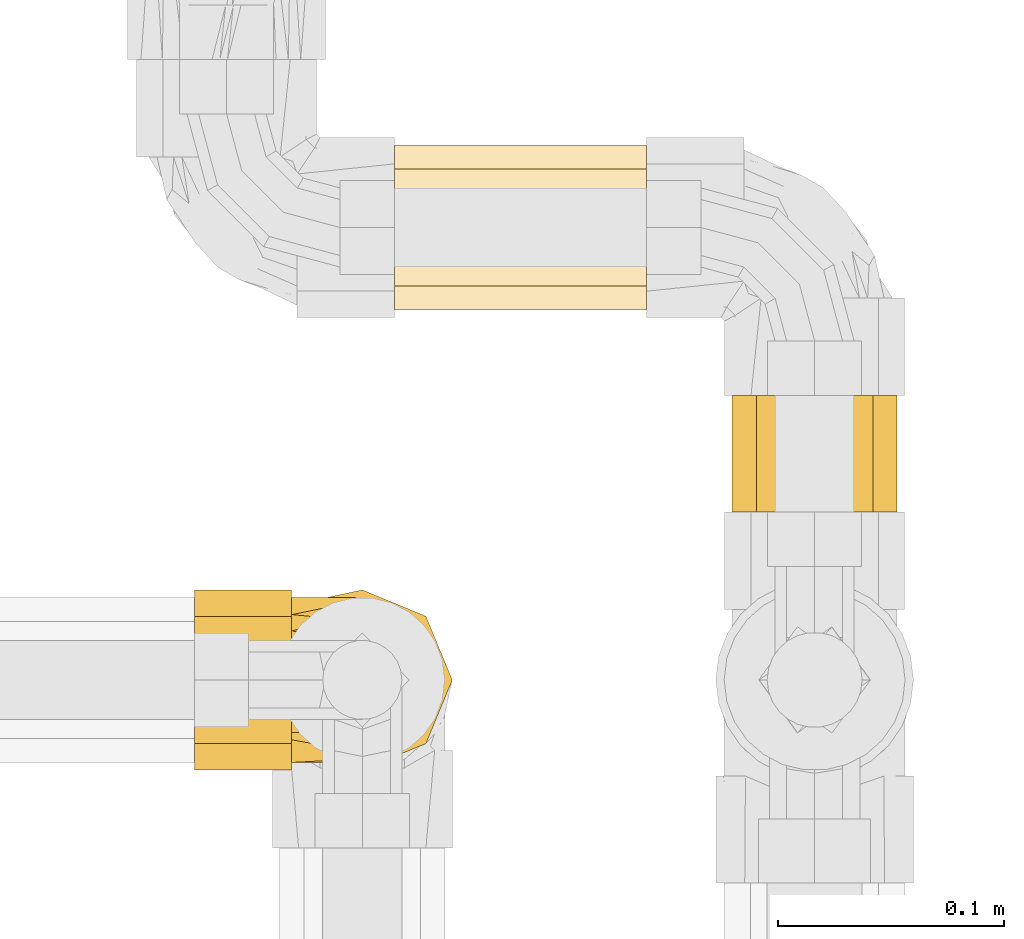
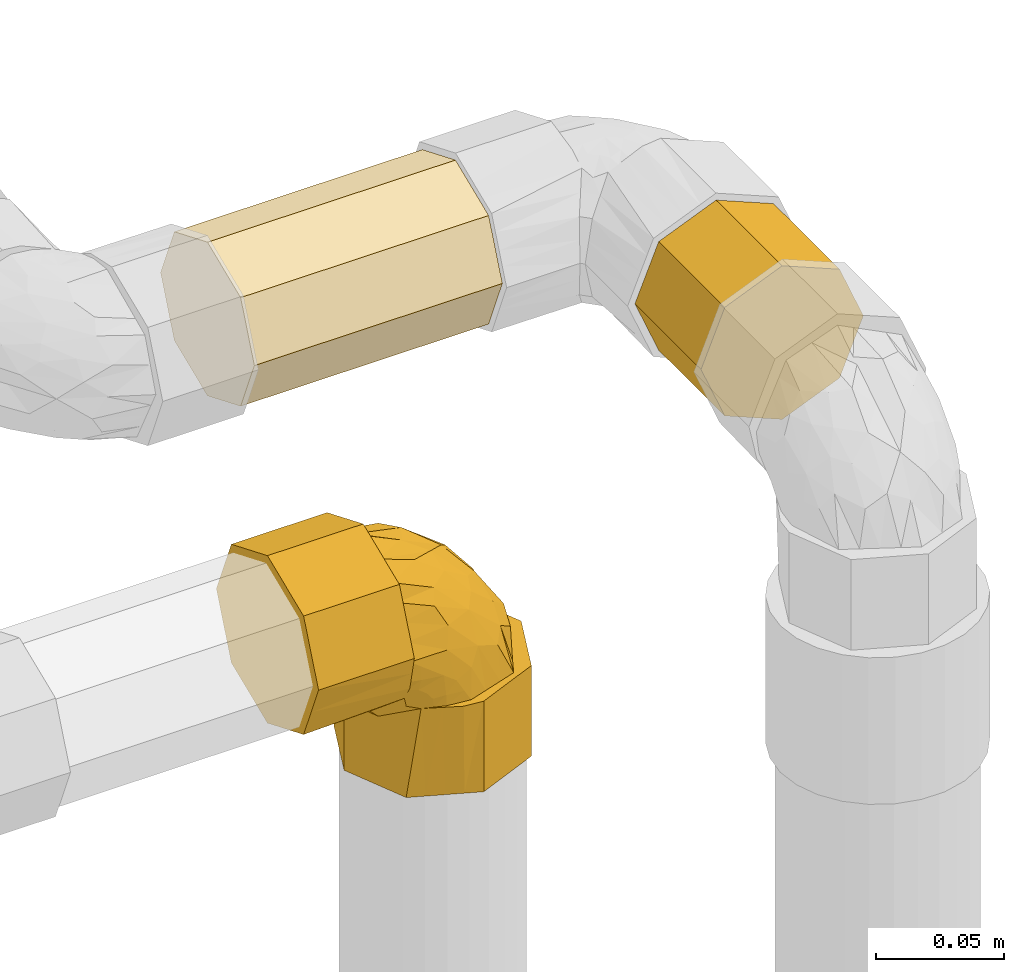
# One storey, part 254 of 652: 3 coverings.
"""IFC2X3 building model written with IfcOpenShell, lengths in millimetres."""

from ifc_helpers import new_model, entity, si_unit, converted_unit, direction, frame, origin, place, context, subcontext, project, spatial, faceted_brep, material, type_object, element, save


model = new_model("IFC2X3")

# Units and contexts
model_context = context("Model", 3, precision=0.01, world=frame((0.0, 0.0, 308426.39999999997)), true_north=direction((6.123233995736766e-17, 1.0)))
plan_context = context("Plan", 3, precision=0.01, world=frame((0.0, 0.0, 308426.39999999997)), true_north=direction((6.123233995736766e-17, 1.0)))
body_context = subcontext(model_context, "Body", "Model", "MODEL_VIEW")
ifc_project = project(units=[si_unit("LENGTHUNIT", "METRE", prefix="MILLI"), si_unit("AREAUNIT", "SQUARE_METRE"), si_unit("VOLUMEUNIT", "CUBIC_METRE"), converted_unit("PLANEANGLEUNIT", "DEGREE", entity("IfcPlaneAngleMeasure", 0.017453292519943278), si_unit("PLANEANGLEUNIT", "RADIAN"), dimensions=[0, 0, 0, 0, 0, 0, 0])], contexts=[model_context, plan_context])

# Site, building, storey
site_placement = place(None, origin())
site = spatial("IfcSite", under=ifc_project, at=site_placement, Name="Default", CompositionType="ELEMENT")
building_placement = place(site_placement, origin())
building = spatial("IfcBuilding", under=site, at=building_placement, CompositionType="ELEMENT")
storey_placement = place(building_placement, frame((0.0, 0.0, 1730.6999999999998)))
storey = spatial("IfcBuildingStorey", under=building, at=storey_placement, Name="EG_Produktion_FFB", CompositionType="ELEMENT", Elevation=1730.6999999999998)

# Coverings
ifc_material = material(Name="Dämmung - Armaflex-Schlauch")
covering_type = type_object("IfcCoveringType", Name="Rohrdämmung außen:Armaflex-Schlauch", PredefinedType="INSULATION")
covering_1_placement = place(storey_placement, frame((79307.84274770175, 51596.63308173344, 3641.3952722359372)))
element("IfcCovering", 1, at=covering_1_placement, inside=storey, type_object=covering_type, material=ifc_material, Name="Rohrdämmung außen:Armaflex-Schlauch", ObjectType="Rohrdämmung außen:Armaflex-Schlauch", PredefinedType="INSULATION", context=body_context, shape_type="Brep", body=[
    faceted_brep([(60.274884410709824, 76.69198954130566, -72.59527223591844), (64.29230202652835, 77.16404151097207, -72.5952722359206), (70.51547105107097, 77.89527223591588, -72.59527223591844), (78.15107734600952, 74.45323515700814, -72.5952722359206), (85.78668364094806, 71.01119807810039, -72.5952722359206), (92.9604596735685, 67.77734838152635, -72.59527223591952), (100.13423570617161, 64.54349868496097, -72.59527223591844), (104.38836473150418, 52.969385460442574, -72.59527223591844), (108.64249375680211, 41.39527223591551, -72.59527223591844), (104.99034516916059, 34.17467666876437, -72.59527223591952), (101.33819658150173, 26.954081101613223, -72.59527223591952), (97.68604799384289, 19.73348553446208, -72.59527223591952), (94.03389940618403, 12.512889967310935, -72.59527223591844), (86.6719403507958, 10.12835180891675, -72.59527223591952), (78.59370570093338, 7.511812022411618, -72.5952722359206), (70.51547105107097, 4.89527223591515, -72.59527223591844), (64.29230202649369, 5.626502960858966, -72.5952722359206), (60.274884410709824, 6.09855493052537, -72.59527223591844), (55.423202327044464, 7.751839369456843, -72.5952722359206), (50.57152024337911, 9.405123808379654, -72.59527223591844), (58.21191101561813, 5.948214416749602, -72.59527223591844), (65.85230178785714, 2.491305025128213, -72.59527223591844), (74.24999999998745, 1.5952722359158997, -72.59527223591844), (82.25021212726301, 4.909068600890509, -72.59527223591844), (88.32142494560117, 7.423847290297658, -72.59527223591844), (95.35713741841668, 10.33813481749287, -72.59527223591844), (102.39284989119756, 13.25242234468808, -72.59527223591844), (105.3071374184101, 20.28813481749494, -72.59527223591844), (108.2214249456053, 27.323847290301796, -72.59527223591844), (111.13571247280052, 34.359559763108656, -72.59527223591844), (114.0499999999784, 41.39527223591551, -72.59527223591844), (110.73620360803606, 49.3954844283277, -72.59527223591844), (108.2214249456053, 55.466697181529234, -72.59527223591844), (105.3071374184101, 62.50240965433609, -72.59527223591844), (102.39284989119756, 69.53812212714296, -72.59527223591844), (95.35713741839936, 72.45240965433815, -72.59527223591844), (88.32142494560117, 75.36669718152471, -72.59527223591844), (82.25021085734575, 77.88147639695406, -72.59527223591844), (74.24999999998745, 81.19527223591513, -72.59527223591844), (66.0466228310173, 79.42576045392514, -72.59527223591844), (57.84324566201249, 77.65624867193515, -72.59527223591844), (50.57152024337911, 73.38542066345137, -72.59527223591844), (55.423202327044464, 75.03870510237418, -72.5952722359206), (67.21428752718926, 4.509559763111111, -115.64527223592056), (60.17857505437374, 7.423847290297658, -115.64527223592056), (53.14286258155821, 10.33813481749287, -115.64527223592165), (46.10715010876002, 13.25242234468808, -115.64527223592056), (43.1928625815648, 20.28813481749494, -115.64527223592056), (40.2785750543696, 27.323847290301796, -115.64527223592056), (37.763796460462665, 33.395059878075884, -115.64527223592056), (34.44999999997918, 41.39527223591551, -115.64527223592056), (37.76379578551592, 49.39548296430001, -115.64527223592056), (40.2785750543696, 55.466697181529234, -115.64527223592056), (43.1928625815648, 62.50240965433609, -115.64527223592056), (46.10715010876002, 69.53812212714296, -115.64527223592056), (53.14286258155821, 72.45240965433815, -115.64527223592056), (60.17857505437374, 75.36669718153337, -115.64527223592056), (67.21428752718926, 78.28098470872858, -115.64527223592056), (74.24999999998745, 81.19527223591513, -115.64527223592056), (81.28571247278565, 78.28098470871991, -115.64527223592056), (88.32142494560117, 75.36669718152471, -115.64527223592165), (95.35713741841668, 72.45240965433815, -115.64527223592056), (102.39284989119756, 69.53812212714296, -115.64527223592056), (105.3071374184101, 62.50240965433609, -115.64527223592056), (108.22142494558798, 55.466697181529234, -115.64527223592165), (111.13571247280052, 48.43098470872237, -115.64527223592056), (114.0499999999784, 41.39527223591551, -115.64527223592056), (111.13571247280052, 34.359559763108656, -115.64527223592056), (108.2214249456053, 27.323847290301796, -115.64527223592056), (105.3071374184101, 20.28813481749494, -115.64527223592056), (102.39284989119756, 13.25242234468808, -115.64527223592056), (90.250425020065, 8.222865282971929, -115.64527223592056), (82.25021251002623, 4.909068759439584, -115.64527223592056), (74.24999999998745, 1.5952722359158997, -115.64527223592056), (44.81389553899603, 16.107170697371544, -76.44407623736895), (34.44999999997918, 41.39527223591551, -82.67731282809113), (36.753135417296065, 32.10224491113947, -81.48509653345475), (39.056270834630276, 22.809217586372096, -80.29288023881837), (37.9047031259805, 27.455731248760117, -80.88898838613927), (44.81389553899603, 66.68337377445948, -76.44407623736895), (36.753135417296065, 50.688299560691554, -81.48509653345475), (39.056270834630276, 59.981326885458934, -80.29288023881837), (35.51913456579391, 45.70917260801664, -82.1238761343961), (43.04999999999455, 81.19527223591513, -41.39527223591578), (43.04999999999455, 77.88147589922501, -33.39506017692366), (43.04999999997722, 75.36669718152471, -27.323847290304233), (43.04999999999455, 72.45240965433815, -20.28813481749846), (43.04999999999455, 69.53812212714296, -13.252422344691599), (43.04999999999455, 62.50240965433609, -10.33813481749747), (43.04999999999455, 55.466697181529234, -7.4238472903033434), (43.04999999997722, 49.39548303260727, -4.9090680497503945), (43.04999999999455, 41.39527223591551, -1.5952722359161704), (43.04999999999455, 33.39506041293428, -4.909068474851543), (43.04999999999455, 27.323847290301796, -7.4238472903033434), (43.05000000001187, 20.28813481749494, -10.33813481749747), (43.04999999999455, 13.25242234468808, -13.252422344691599), (43.04999999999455, 10.33813481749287, -20.288134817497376), (43.04999999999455, 7.423847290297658, -27.32384729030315), (43.05000000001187, 4.509559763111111, -34.359559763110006), (43.04999999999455, 1.5952722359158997, -41.39527223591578), (43.04999999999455, 3.3647978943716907, -49.59868007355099), (43.04999999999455, 5.134323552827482, -57.80208791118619), (43.04999999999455, 9.405123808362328, -65.0737519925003), (43.05000000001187, 7.751839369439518, -60.22206990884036), (43.04999999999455, 6.098554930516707, -55.37038782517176), (43.05000000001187, 5.6265030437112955, -51.35297091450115), (43.05000000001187, 5.260887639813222, -48.24138604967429), (43.04999999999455, 4.89527223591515, -45.12980118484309), (43.05000000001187, 8.233215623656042, -37.72511002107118), (43.05000000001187, 11.571159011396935, -30.320418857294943), (43.05000000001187, 14.909102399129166, -22.9157276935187), (43.04999999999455, 18.247045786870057, -15.511036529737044), (43.05000000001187, 24.034102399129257, -13.383972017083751), (43.05000000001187, 29.821159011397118, -11.256907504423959), (43.04999999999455, 41.39527223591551, -7.002778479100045), (43.05000000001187, 48.61586780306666, -10.654927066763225), (43.05000000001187, 55.83646337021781, -14.307075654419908), (43.05000000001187, 63.05705893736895, -17.959224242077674), (43.04999999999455, 70.2776545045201, -21.611372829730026), (43.05000000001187, 72.18205893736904, -27.490979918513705), (43.05000000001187, 74.08646337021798, -33.370587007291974), (43.04999999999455, 77.89527223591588, -45.12980118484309), (43.05000000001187, 77.52965683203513, -48.24138604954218), (43.05000000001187, 77.16404142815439, -51.35297091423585), (43.04999999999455, 76.69198954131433, -55.37038782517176), (43.05000000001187, 75.03870510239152, -60.22206990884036), (43.04999999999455, 73.38542066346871, -65.0737519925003), (43.04999999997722, 76.8423263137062, -57.433378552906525), (43.04999999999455, 80.29923196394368, -49.793005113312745), (0.0, 13.25242234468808, -13.252422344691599), (0.0, 25.39484752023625, -8.222865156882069), (0.0, 33.395059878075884, -4.909068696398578), (0.0, 41.39527223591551, -1.5952722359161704), (0.0, 48.43098470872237, -4.509559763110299), (0.0, 55.466697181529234, -7.4238472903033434), (0.0, 62.50240965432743, -10.338134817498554), (0.0, 69.53812212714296, -13.252422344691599), (0.0, 72.45240965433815, -20.288134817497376), (0.0, 75.36669718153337, -27.32384729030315), (0.0, 78.28098470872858, -34.359559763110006), (0.0, 81.19527223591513, -41.39527223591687), (0.0, 78.28098470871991, -48.43098470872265), (0.0, 75.36669718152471, -55.46669718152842), (0.0, 72.45240965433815, -62.50240965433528), (0.0, 69.53812212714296, -69.53812212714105), (0.0, 62.50240965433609, -72.45240965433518), (0.0, 55.466697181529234, -75.36669718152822), (0.0, 49.39548475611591, -77.88147570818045), (0.0, 41.39527223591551, -81.19527223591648), (0.0, 33.39506148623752, -77.88147644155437), (0.0, 27.323847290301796, -75.36669718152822), (0.0, 20.28813481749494, -72.4524096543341), (0.0, 13.25242234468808, -69.53812212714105), (0.0, 10.33813481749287, -62.502409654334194), (0.0, 7.423847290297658, -55.46669718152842), (0.0, 4.909068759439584, -49.39548474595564), (0.0, 1.5952722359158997, -41.39527223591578), (0.0, 4.509559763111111, -34.359559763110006), (0.0, 7.423847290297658, -27.32384729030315), (0.0, 10.33813481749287, -20.28813481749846), (32.96795940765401, 41.39527223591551, -81.1952722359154), (34.16017570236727, 32.10224491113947, -78.89213681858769), (35.35239199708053, 22.809217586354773, -76.58900140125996), (34.07483277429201, 32.7674716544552, -79.05700314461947), (39.201195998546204, 16.107170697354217, -70.83137669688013), (39.201195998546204, 66.6833737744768, -70.83137669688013), (34.16017570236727, 50.688299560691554, -78.89213681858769), (35.35239199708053, 59.98132688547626, -76.58900140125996), (34.074832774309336, 50.02307281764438, -79.0570031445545), (33.52139609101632, 45.70917252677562, -80.12613769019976), (58.23247908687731, 12.134172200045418, -28.206053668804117), (86.42116019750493, 11.872305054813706, -56.30546273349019), (75.59755590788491, 8.381949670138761, -50.75028825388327), (63.92252865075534, 4.89527223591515, -61.09574012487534), (71.17681219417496, 5.713052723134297, -57.987078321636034), (60.44014498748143, 5.8225813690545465, -45.95077994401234), (74.83060129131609, 14.2911892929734, -36.88337413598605), (90.75092202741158, 17.295947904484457, -51.91196638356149), (78.0596475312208, 41.39527223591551, -23.773093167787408), (68.7383173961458, 33.32279780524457, -18.356403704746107), (88.06243078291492, 32.96207522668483, -34.595046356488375), (100.99678220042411, 41.39527223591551, -60.38972746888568), (100.72281157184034, 31.958631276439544, -53.8523622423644), (79.36057207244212, 20.543012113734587, -33.57875936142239), (45.44339488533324, 4.89527223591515, -46.96057105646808), (47.83678977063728, 4.89527223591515, -48.79134092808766), (52.623579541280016, 4.89527223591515, -52.4528806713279), (53.48626432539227, 4.89527223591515, -53.11277065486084), (58.27305409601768, 4.89527223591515, -56.77431039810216), (60.59226921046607, 17.204288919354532, -23.21474453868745), (91.05533751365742, 23.523091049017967, -44.283571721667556), (98.29864441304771, 22.506400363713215, -58.153253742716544), (69.72062004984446, 24.54284909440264, -22.79779096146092), (81.643537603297, 26.881676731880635, -30.874072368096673), (60.554823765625, 41.39527223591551, -15.387935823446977), (59.36959978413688, 41.39527223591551, -14.82019005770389), (93.35107064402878, 41.39527223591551, -48.184182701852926), (89.63440863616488, 41.39527223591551, -42.250937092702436), (85.70535908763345, 41.39527223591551, -35.97863793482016), (57.76510271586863, 26.983143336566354, -14.948660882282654), (62.477618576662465, 8.925282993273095, -36.867223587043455), (99.13845119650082, 41.39527223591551, -57.42310466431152), (67.49149366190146, 4.89527223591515, -67.32079492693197), (59.66627116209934, 5.551365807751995, -66.95210059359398), (54.38051617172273, 6.779464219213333, -67.68084856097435), (33.737362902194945, 41.39527223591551, -81.90790933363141), (51.58600444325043, 6.674921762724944, -64.05926727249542), (44.9882204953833, 11.256462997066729, -70.65705203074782), (47.964422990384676, 6.779464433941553, -61.26475634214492), (48.600669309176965, 5.565993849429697, -56.007071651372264), (59.66627116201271, 77.23917866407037, -66.95210059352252), (67.49149366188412, 77.89527223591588, -67.32079492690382), (44.988220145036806, 71.53408126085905, -70.65705212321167), (51.58600369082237, 76.11562236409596, -64.05926802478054), (58.273054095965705, 77.89527223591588, -56.77431039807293), (54.3805161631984, 76.01108024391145, -67.6808485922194), (47.96442295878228, 76.01108002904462, -61.26475635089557), (48.600669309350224, 77.22455062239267, -56.00707165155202), (47.83678977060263, 77.89527223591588, -48.791340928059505), (45.44339488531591, 77.89527223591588, -46.96057105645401), (52.623579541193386, 77.89527223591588, -52.452880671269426), (53.48626432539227, 77.89527223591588, -53.11277065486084), (63.92252865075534, 77.89527223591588, -61.09574012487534), (78.04877773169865, 74.88571901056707, -55.930703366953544), (85.86627113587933, 71.63741334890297, -57.414773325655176), (57.28853793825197, 75.88132954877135, -39.07241371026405), (85.39518385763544, 50.93896013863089, -32.13864951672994), (77.13544844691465, 66.01083955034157, -35.612071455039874), (68.41457314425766, 73.66837271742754, -41.054937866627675), (64.68516499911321, 68.18270760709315, -28.565877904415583), (64.86670611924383, 76.8938659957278, -49.4212392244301), (73.19566844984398, 76.90226649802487, -59.57612792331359), (85.8185794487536, 67.43892667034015, -47.70689865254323), (75.96028629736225, 60.25020692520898, -28.82672081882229), (65.77892171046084, 51.156391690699, -17.118194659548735), (60.53986394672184, 60.071171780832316, -18.6531548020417), (57.39776429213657, 73.16342274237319, -32.13514386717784), (95.84113677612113, 58.19577940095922, -50.73714499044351), (86.4944008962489, 61.698892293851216, -40.74201153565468), (94.20624665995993, 66.04016185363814, -59.56172140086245), (97.22085117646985, 49.67803307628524, -46.888323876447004)], [[[0, 1, 2, 3, 4, 5, 6, 7, 8, 9, 10, 11, 12, 13, 14, 15, 16, 17, 18, 19, 20, 21, 22, 23, 24, 25, 26, 27, 28, 29, 30, 31, 32, 33, 34, 35, 36, 37, 38, 39, 40, 41, 42]], [[43, 44, 45, 46, 47, 48, 49, 50, 51, 52, 53, 54, 55, 56, 57, 58, 59, 60, 61, 62, 63, 64, 65, 66, 67, 68, 69, 70, 71, 72, 73]], [[47, 46, 74]], [[75, 50, 49]], [[76, 75, 49]], [[48, 77, 78, 76]], [[47, 74, 77]], [[44, 20, 45]], [[43, 21, 44]], [[46, 19, 74]], [[77, 48, 47]], [[44, 21, 20]], [[43, 22, 21]], [[48, 76, 49]], [[43, 73, 22]], [[45, 20, 19]], [[19, 46, 45]], [[23, 22, 73, 72, 71, 70, 26, 25, 24]], [[26, 70, 69, 68, 67, 66, 30, 29, 28, 27]], [[38, 37, 36, 35, 34, 62, 61, 60, 59, 58]], [[30, 66, 65, 64, 63, 62, 34, 33, 32, 31]], [[56, 40, 39]], [[53, 79, 54]], [[39, 57, 56]], [[41, 55, 54]], [[40, 55, 41]], [[80, 52, 51]], [[52, 80, 81]], [[58, 57, 38]], [[51, 75, 82, 80]], [[38, 57, 39]], [[79, 53, 81]], [[55, 40, 56]], [[51, 50, 75]], [[53, 52, 81]], [[79, 41, 54]], [[83, 84, 85, 86, 87, 88, 89, 90, 91, 92, 93, 94, 95, 96, 97, 98, 99, 100, 101, 102, 103, 104, 105, 106, 107, 108, 109, 110, 111, 112, 113, 114, 115, 116, 117, 118, 119, 120, 121, 122, 123, 124, 125, 126, 127, 128]], [[129, 130, 131, 132, 133, 134, 135, 136, 137, 138, 139, 140, 141, 142, 143, 144, 145, 146, 147, 148, 149, 150, 151, 152, 153, 154, 155, 156, 157, 158, 159]], [[132, 131, 130, 129, 95, 94, 93, 92, 91]], [[95, 129, 159, 158, 157, 156, 99, 98, 97, 96]], [[156, 155, 154, 100]], [[101, 153, 102]], [[99, 156, 100]], [[101, 100, 154]], [[149, 148, 160]], [[102, 153, 152]], [[150, 161, 162]], [[161, 150, 149]], [[149, 160, 163, 161]], [[151, 164, 152]], [[164, 151, 162]], [[153, 101, 154]], [[151, 150, 162]], [[164, 102, 152]], [[145, 144, 165]], [[146, 166, 147]], [[166, 146, 167]], [[160, 148, 147]], [[145, 165, 167]], [[142, 127, 143]], [[141, 128, 142]], [[144, 126, 165]], [[167, 146, 145]], [[142, 128, 127]], [[141, 83, 128]], [[147, 166, 168, 169, 160]], [[141, 140, 83]], [[143, 127, 126]], [[126, 144, 143]], [[91, 90, 89, 88, 87, 136, 135, 134, 133, 132]], [[138, 137, 136, 87, 86, 85, 84, 83, 140, 139]], [[109, 170, 110]], [[13, 171, 172]], [[14, 13, 172]], [[173, 174, 175]], [[176, 171, 177]], [[15, 14, 174]], [[178, 179, 180]], [[9, 181, 182]], [[172, 175, 174]], [[13, 12, 171]], [[12, 11, 177]], [[176, 177, 183]], [[175, 107, 184, 185, 186, 187, 188, 173]], [[189, 170, 176]], [[176, 172, 171]], [[190, 191, 182]], [[11, 10, 191]], [[177, 11, 191]], [[170, 189, 110]], [[192, 183, 193]], [[179, 178, 194, 195]], [[182, 191, 10]], [[190, 182, 180]], [[177, 191, 190]], [[182, 10, 9]], [[182, 196, 180]], [[177, 190, 183]], [[177, 171, 12]], [[180, 196, 197, 198, 178]], [[113, 179, 195]], [[112, 111, 199, 113]], [[199, 111, 189]], [[195, 114, 113]], [[179, 192, 193]], [[200, 175, 172]], [[200, 108, 175]], [[172, 176, 200]], [[189, 111, 110]], [[200, 170, 109]], [[183, 189, 176]], [[108, 200, 109]], [[189, 192, 199]], [[108, 107, 175]], [[176, 170, 200]], [[193, 190, 180]], [[189, 183, 192]], [[190, 193, 183]], [[179, 193, 180]], [[181, 9, 8]], [[182, 181, 201, 196]], [[192, 179, 199]], [[179, 113, 199]], [[174, 173, 202, 15]], [[172, 174, 14]], [[173, 203, 202]], [[188, 204, 203]], [[17, 203, 18]], [[202, 17, 16, 15]], [[205, 76, 163]], [[74, 164, 162, 77]], [[163, 76, 78, 77, 162, 161]], [[206, 102, 207]], [[207, 164, 74]], [[106, 105, 104, 185, 184, 107]], [[206, 208, 102]], [[186, 185, 209, 188, 187]], [[205, 75, 76]], [[163, 160, 205]], [[206, 207, 19]], [[164, 207, 102]], [[19, 18, 204]], [[19, 207, 74]], [[202, 203, 17]], [[204, 206, 19]], [[203, 173, 188]], [[18, 203, 204]], [[102, 208, 103]], [[103, 209, 104]], [[208, 206, 188]], [[209, 103, 208]], [[209, 185, 104]], [[188, 209, 208]], [[204, 188, 206]], [[205, 160, 169]], [[210, 211, 0]], [[169, 168, 166, 167, 81, 80, 82]], [[41, 212, 213]], [[1, 0, 211, 2]], [[213, 214, 215]], [[205, 169, 82]], [[79, 165, 212]], [[126, 125, 216]], [[213, 212, 126]], [[205, 82, 75]], [[167, 165, 79, 81]], [[217, 124, 218]], [[210, 215, 214]], [[122, 121, 219, 218, 124, 123]], [[41, 79, 212]], [[212, 165, 126]], [[215, 41, 213]], [[125, 124, 217]], [[126, 216, 213]], [[125, 217, 216]], [[217, 218, 220, 221, 214]], [[215, 42, 41]], [[0, 42, 210]], [[211, 210, 222]], [[214, 213, 216]], [[210, 42, 215]], [[216, 217, 214]], [[210, 214, 222]], [[4, 223, 224]], [[121, 120, 225]], [[226, 178, 198, 197]], [[227, 228, 229]], [[230, 228, 223]], [[231, 222, 230]], [[224, 228, 232]], [[233, 234, 226]], [[3, 231, 223]], [[235, 234, 233]], [[236, 225, 120]], [[231, 2, 211, 222]], [[226, 237, 238]], [[4, 3, 223]], [[225, 221, 220, 218, 219, 121]], [[239, 224, 232]], [[6, 237, 7]], [[237, 6, 239]], [[240, 201, 7]], [[230, 225, 228]], [[226, 240, 237]], [[236, 228, 225]], [[229, 117, 235]], [[194, 234, 115]], [[226, 234, 178]], [[115, 114, 195, 194]], [[237, 239, 238]], [[240, 226, 197]], [[228, 224, 223]], [[224, 239, 5]], [[5, 239, 6]], [[5, 4, 224]], [[239, 232, 238]], [[7, 201, 181, 8]], [[7, 237, 240]], [[240, 197, 196, 201]], [[229, 118, 117]], [[194, 178, 234]], [[233, 238, 227]], [[235, 117, 116]], [[234, 235, 116]], [[229, 235, 233]], [[231, 3, 2]], [[230, 223, 231]], [[230, 222, 214, 221]], [[225, 230, 221]], [[119, 118, 236, 120]], [[236, 118, 229]], [[229, 228, 236]], [[234, 116, 115]], [[227, 238, 232]], [[226, 238, 233]], [[228, 227, 232]], [[233, 227, 229]]]),
])
covering_2_placement = place(storey_placement, frame((79396.34274770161, 51799.93308173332, 3561.9047277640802)))
element("IfcCovering", 2, at=covering_2_placement, inside=storey, type_object=covering_type, material=ifc_material, Name="Rohrdämmung außen:Armaflex-Schlauch", ObjectType="Rohrdämmung außen:Armaflex-Schlauch", PredefinedType="INSULATION", context=body_context, shape_type="Brep", body=[
    faceted_brep([(111.49999999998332, 38.0952722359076, 1.595272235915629), (111.50000000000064, 43.52083009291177, 3.8426118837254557), (111.50000000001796, 50.99997099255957, 6.940573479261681), (111.50000000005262, 57.45232037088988, 9.61322410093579), (111.50000000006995, 63.9046697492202, 12.28587472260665), (111.50000000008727, 66.57732037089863, 18.73822410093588), (111.50000000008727, 69.24997099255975, 25.190573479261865), (111.50000000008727, 71.9226216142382, 31.642922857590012), (111.50000000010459, 74.59527223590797, 38.09527223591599), (111.50000000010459, 72.34793258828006, 43.520830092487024), (111.50000000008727, 69.24997099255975, 50.99997099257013), (111.50000000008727, 66.57732037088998, 57.45232037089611), (111.50000000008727, 63.9046697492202, 63.90466974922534), (111.50000000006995, 57.45232037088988, 66.5773203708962), (111.50000000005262, 50.99997099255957, 69.24997099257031), (111.50000000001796, 44.54762161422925, 71.92262161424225), (111.50000000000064, 38.0952722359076, 74.59527223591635), (111.49999999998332, 32.66971437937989, 72.34793258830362), (111.49999999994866, 25.190573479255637, 69.24997099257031), (111.49999999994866, 18.738224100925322, 66.5773203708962), (111.49999999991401, 12.28587472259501, 63.90466974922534), (111.49999999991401, 9.613224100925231, 57.45232037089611), (111.49999999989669, 6.9405734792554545, 50.99997099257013), (111.49999999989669, 4.267922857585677, 44.54762161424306), (111.49999999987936, 1.5952722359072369, 38.09527223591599), (111.49999999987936, 4.267922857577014, 31.64292285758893), (111.49999999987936, 6.9405734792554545, 25.190573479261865), (111.49999999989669, 9.613224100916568, 18.73822410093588), (111.49999999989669, 12.28587472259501, 12.28587472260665), (111.49999999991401, 18.738224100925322, 9.61322410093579), (111.49999999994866, 25.190573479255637, 6.940573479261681), (111.49999999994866, 31.64292285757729, 4.267922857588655), (0.0, 38.09527223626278, 74.5952722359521), (0.0, 48.9463879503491, 70.10059294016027), (0.0, 56.42552884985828, 67.00263134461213), (0.0, 63.904669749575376, 63.904669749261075), (0.0, 66.57732037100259, 57.45232037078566), (0.0, 69.24997099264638, 50.99997099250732), (0.0, 71.92262161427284, 44.54762161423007), (0.0, 74.59527223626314, 38.095272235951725), (0.0, 70.10059293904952, 27.244156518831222), (0.0, 67.00263134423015, 19.765015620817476), (0.0, 63.904669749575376, 12.285874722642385), (0.0, 57.45232037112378, 9.613224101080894), (0.0, 50.99997099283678, 6.940573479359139), (0.0, 44.54762161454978, 4.267922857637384), (0.0, 38.09527223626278, 1.5952722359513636), (0.0, 27.244156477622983, 6.089951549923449), (0.0, 19.765015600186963, 9.187913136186), (0.0, 12.285874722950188, 12.285874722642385), (0.0, 9.613224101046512, 18.738224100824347), (0.0, 6.940573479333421, 25.19057347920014), (0.0, 4.267922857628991, 31.642922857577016), (0.0, 1.5952722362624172, 38.095272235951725), (0.0, 6.089951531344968, 48.946387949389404), (0.0, 9.187913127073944, 56.42552884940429), (0.0, 12.285874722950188, 63.904669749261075), (0.0, 18.738224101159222, 66.57732037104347), (0.0, 25.19057347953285, 69.24997099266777), (0.0, 31.642922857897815, 71.92262161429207)], [[[0, 1, 2, 3, 4, 5, 6, 7, 8, 9, 10, 11, 12, 13, 14, 15, 16, 17, 18, 19, 20, 21, 22, 23, 24, 25, 26, 27, 28, 29, 30, 31]], [[32, 33, 34, 35, 36, 37, 38, 39, 40, 41, 42, 43, 44, 45, 46, 47, 48, 49, 50, 51, 52, 53, 54, 55, 56, 57, 58, 59]], [[50, 49, 28, 27, 26, 25, 24, 53, 52, 51]], [[47, 46, 0, 31, 30, 29, 28, 49, 48]], [[44, 43, 42, 4, 3, 2, 1, 0, 46, 45]], [[4, 42, 41, 40, 39, 8, 7, 6, 5]], [[37, 36, 35, 12, 11, 10, 9, 8, 39, 38]], [[12, 35, 34, 33, 32, 16, 15, 14, 13]], [[58, 57, 56, 20, 19, 18, 17, 16, 32, 59]], [[20, 56, 55, 54, 53, 24, 23, 22, 21]]]),
])
covering_3_placement = place(storey_placement, frame((79543.99747546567, 51712.27835396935, 3561.9047277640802)))
element("IfcCovering", 3, at=covering_3_placement, inside=storey, type_object=covering_type, material=ifc_material, Name="Rohrdämmung außen:Armaflex-Schlauch", ObjectType="Rohrdämmung außen:Armaflex-Schlauch", PredefinedType="INSULATION", context=body_context, shape_type="Brep", body=[
    faceted_brep([(63.904669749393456, 0.0, 63.904669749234), (57.45232037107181, 0.0, 66.57732037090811), (50.99997099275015, 0.0, 69.24997099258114), (44.5476216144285, 0.0, 71.92262161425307), (38.09527223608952, 0.0, 74.59527223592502), (32.221974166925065, 0.0, 72.16247251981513), (25.190573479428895, 0.0, 69.24997099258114), (18.738224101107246, 0.0, 66.57732037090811), (12.285874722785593, 0.0, 63.904669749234), (9.613224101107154, 0.0, 57.45232037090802), (6.940573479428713, 0.0, 50.999970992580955), (4.267922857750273, 0.0, 44.547621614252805), (1.5952722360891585, 0.0, 38.095272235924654), (4.028072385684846, 0.0, 32.22197312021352), (6.460872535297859, 0.0, 26.348674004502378), (9.373373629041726, 0.0, 19.317274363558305), (12.285874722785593, 0.0, 12.285874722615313), (18.738224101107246, 0.0, 9.613224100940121), (25.190573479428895, 0.0, 6.940573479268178), (31.64292285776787, 0.0, 4.267922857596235), (38.09527223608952, 0.0, 1.595272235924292), (44.5476216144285, 0.0, 4.267922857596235), (50.99997099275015, 0.0, 6.940573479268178), (57.45232037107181, 0.0, 9.613224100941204), (63.904669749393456, 0.0, 12.285874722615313), (66.57732037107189, 0.0, 18.738224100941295), (69.24997099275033, 0.0, 25.19057347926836), (71.92262161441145, 0.0, 31.64292285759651), (74.59527223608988, 0.0, 38.095272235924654), (72.1624725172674, 0.0, 43.96857031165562), (69.24997099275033, 0.0, 50.999970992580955), (66.57732037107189, 0.0, 57.4523203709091), (63.9046697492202, 51.49999999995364, 12.285874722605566), (57.45232037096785, 51.499999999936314, 9.6132241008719), (50.999970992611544, 51.49999999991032, 6.940573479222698), (44.54762161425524, 51.49999999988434, 4.267922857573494), (38.09527223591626, 51.49999999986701, 1.5952722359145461), (32.22197398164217, 51.499999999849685, 4.028072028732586), (26.34867572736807, 51.49999999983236, 6.4608718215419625), (19.31727522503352, 51.49999999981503, 9.37337327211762), (12.285874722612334, 51.49999999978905, 12.285874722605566), (9.613224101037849, 51.49999999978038, 18.73822410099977), (6.940573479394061, 51.49999999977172, 25.19057347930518), (4.267922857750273, 51.499999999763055, 31.642922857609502), (1.5952722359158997, 51.499999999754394, 38.09527223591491), (4.028071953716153, 51.499999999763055, 43.96857030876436), (6.460871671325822, 51.49999999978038, 49.84186838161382), (9.373373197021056, 51.49999999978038, 56.87326906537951), (12.285874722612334, 51.49999999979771, 63.904669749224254), (18.73822410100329, 51.49999999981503, 66.57732037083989), (25.190573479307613, 51.49999999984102, 69.24997099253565), (31.64292285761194, 51.49999999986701, 71.92262161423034), (38.09527223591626, 51.49999999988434, 74.59527223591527), (43.96857031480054, 51.49999999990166, 72.16247251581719), (49.84186839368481, 51.49999999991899, 69.72967279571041), (56.87326907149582, 51.499999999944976, 66.81717127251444), (63.9046697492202, 51.499999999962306, 63.904669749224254), (66.57732037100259, 51.49999999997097, 57.45232037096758), (69.24997099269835, 51.49999999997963, 50.99997099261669), (71.92262161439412, 51.49999999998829, 44.5476216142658), (74.59527223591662, 51.49999999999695, 38.09527223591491), (72.16247250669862, 51.49999999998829, 32.221974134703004), (69.72967277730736, 51.49999999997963, 26.348676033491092), (66.81717126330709, 51.49999999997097, 19.317275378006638)], [[[0, 1, 2, 3, 4, 5, 6, 7, 8, 9, 10, 11, 12, 13, 14, 15, 16, 17, 18, 19, 20, 21, 22, 23, 24, 25, 26, 27, 28, 29, 30, 31]], [[32, 33, 34, 35, 36, 37, 38, 39, 40, 41, 42, 43, 44, 45, 46, 47, 48, 49, 50, 51, 52, 53, 54, 55, 56, 57, 58, 59, 60, 61, 62, 63]], [[14, 13, 12, 44, 43, 42, 41, 40, 16, 15]], [[38, 37, 36, 20, 19, 18, 17, 16, 40, 39]], [[34, 33, 32, 24, 23, 22, 21, 20, 36, 35]], [[62, 61, 60, 28, 27, 26, 25, 24, 32, 63]], [[58, 57, 56, 0, 31, 30, 29, 28, 60, 59]], [[0, 56, 55, 54, 53, 52, 4, 3, 2, 1]], [[50, 49, 48, 8, 7, 6, 5, 4, 52, 51]], [[8, 48, 47, 46, 45, 44, 12, 11, 10, 9]]]),
])

save(model, "model.ifc")
